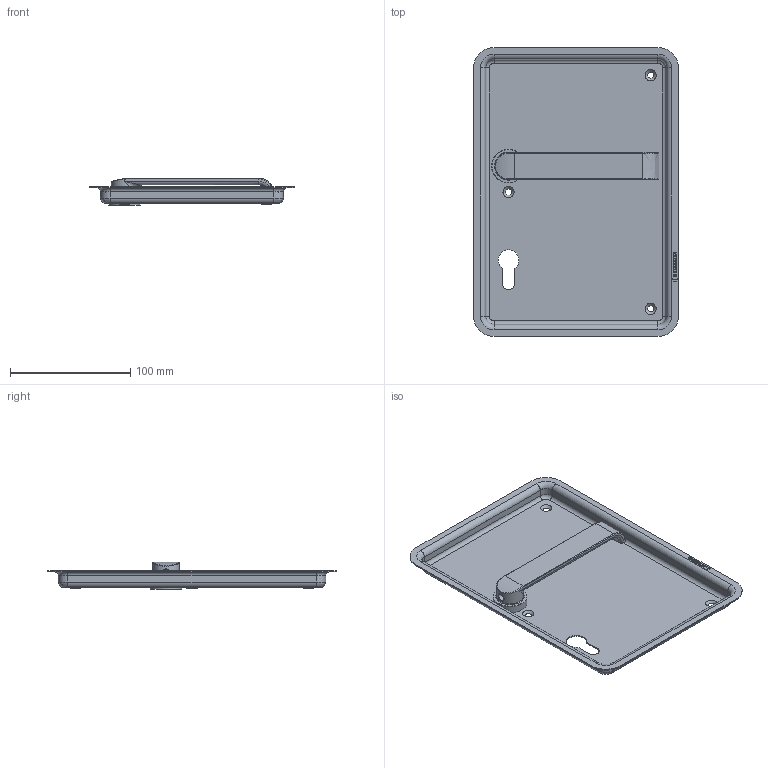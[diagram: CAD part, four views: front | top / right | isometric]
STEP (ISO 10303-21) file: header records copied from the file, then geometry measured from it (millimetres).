
FILE_DESCRIPTION(/* description */ (''),/* implementation_level */ '2;1');
FILE_NAME(/* name */ 'C:\ADSK_DMS_WS\Designs\Vorschläge\Loc Schalen\Muschel Serie 3\S3.13.D1\Heusser-Muschel S3.13.D1.378R.stp',/* time_stamp */ '2020-10-15T16:09:39+02:00',/* author */ ('gm'),/* organization */ (''),/* preprocessor_version */ 'ST-DEVELOPER v16.5',/* originating_system */ 'Autodesk Inventor 2017',/* authorisation */ '');
FILE_SCHEMA (('AUTOMOTIVE_DESIGN { 1 0 10303 214 3 1 1 }'));
Length unit declared in the file: millimetre
Products named in the file (1): S3.13.D1
Bounding box: 170 x 240 x 23 mm (x, y, z)
Volume: 67423.2 mm3; surface area: 105752 mm2
Topology: 1 solids, 2 shells, 306 faces, 767 edges, 486 vertices
Faces by surface type: plane 132, bspline 82, cylinder 61, cone 16, torus 15
Full cylindrical faces by diameter (mm): 1.7 x2, 6 x1, 14.2 x1, 16 x3, 18 x1, 19 x1, 19.1 x1, 22 x1, 23 x1, 23.2 x1, 24 x1, 25 x1, 26 x1, 28 x1
Entity records: 10255 total; most frequent: CARTESIAN_POINT 3037, ORIENTED_EDGE 1448, DIRECTION 1270, EDGE_CURVE 724, VERTEX_POINT 480, AXIS2_PLACEMENT_3D 435, LINE 400, VECTOR 400
